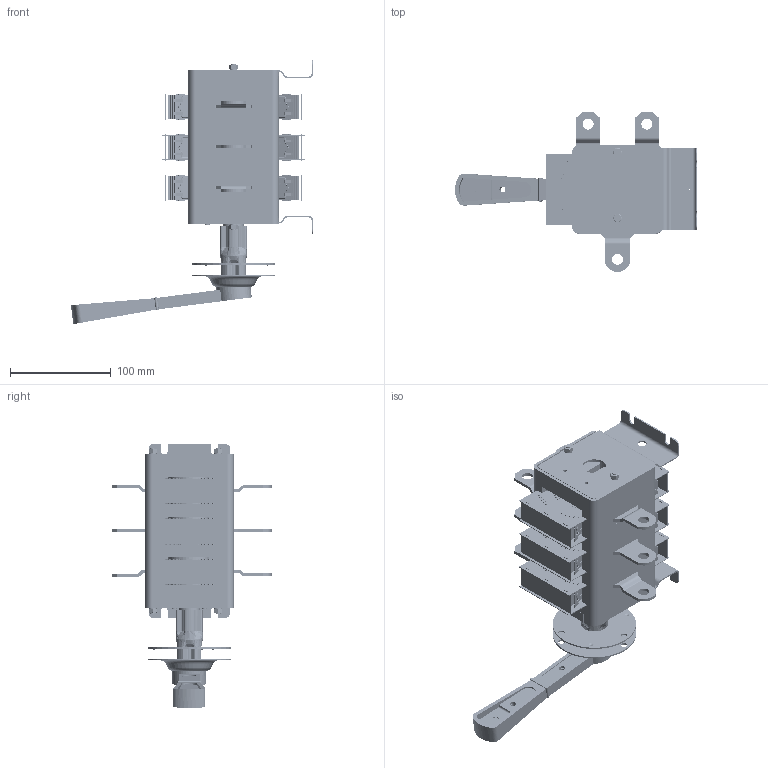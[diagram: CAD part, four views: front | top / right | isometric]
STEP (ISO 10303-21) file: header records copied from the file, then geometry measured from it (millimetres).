
FILE_DESCRIPTION (( 'STEP AP214' ), '1' );
FILE_NAME ('ﾂﾐ32-35 ﾃﾆﾈﾊ.642523.010-01 (ﾂ71250-250ﾀ).STEP', '2023-04-18T12:51:08', ( '' ), ( '' ), 'SwSTEP 2.0', 'SolidWorks 2018', '' );
FILE_SCHEMA (( 'AUTOMOTIVE_DESIGN' ));
Length unit declared in the file: millimetre
Products named in the file (41): Òàáëè÷êà äëÿ ñáîðêè ÷èñòàÿ áîëüøàÿ; ﾂ鏆鮏 ﾃﾆﾈﾊ.745485.015_1; Áîêîâèíà ëåâàÿ ÃÆÈÊ.735224.031; ﾘ琺矜 D15; 想囫蜩磬_闷仁.745355.026; Òàáëè÷êà äëÿ ñáîðêè ÷èñòàÿ; 锐牮钽囫栩咫黖闷仁.741271.006; Êîíòàêò ïîäâèæíûé_ÃÆÈÊ.745355.024; Êîíòàêò ïîäâèæíûé ÃÆÈÊ.685179.158; ﾂﾐ32-35 ﾃﾆﾈﾊ.642523.010-01 (ﾂ71250-250ﾀ); ﾂ鏆鮏 ﾃﾆﾈﾊ.745485.015; Ôëàíåö ÃÆÈÊ.712378.001_-01 (2 ­ ¯à ¢«¥­¨ï); Îñü; 殃钺郷闷仁.746743.010; ﾘ琺矜 5 65ﾃ 016; Âûâîä ÃÆÈÊ.745485.013_‚ë¢®¤_ƒ†ˆŠ.745485.013-02; Ïðóæèíà_250À_-01(¤«ï á¡®àª¨); Êîðïóñ ñðåäíèé ÃÆÈÊ.735384.057; Êàìåðà äóãîãàñèòåëüíàÿ ÃÆÈÊ.686431.029; ﾘ琺矜 ﾃﾆﾈﾊ.758491.056; Øïèëüêà Ì5 ÃÆÈÊ.758292.004; Êîðïóñ ëåâûé ÃÆÈÊ.735384.059; Èñêðîãàñèòåëü ÃÆÈÊ.686433.011 ÑÁ; 砑僔蠂縺_009; 澡犟囹铕 闷仁.745484.003; 羊屙赅_闷仁.741226.006; 锐牮钽囫栩咫黖闷仁.741271.006_sborka; Âûâîä ÃÆÈÊ.745485.013_‚ë¢®¤_ƒ†ˆŠ.745485.013-01; 婰膲僗闉_005; 买箅赅 闷仁.713141.009; 想囫蜩磬_-01 (帷獱); Ãàéêà Ì5-6Í.5.016; ﾎﾁﾎﾋﾎﾗﾊﾀ_ﾍ; ﾏ跖浯 ﾃﾆﾈﾊ.753553.016; Áîêîâèíà ïðàâàÿ ÃÆÈÊ.735224.031; Ðóêîÿòêà ÃÆÈÊ.303658.010; ﾘ琺矜 D32; Ïëàñòèíà óïðàâëåíèÿ; Âûâîä ÃÆÈÊ.745485.013_‚ë¢®¤_ƒ†ˆŠ.745485.013; ﾂ琿 ﾃﾆﾈﾊ.715274.006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
Assembly tree (76 placements, depth 4):
  ﾂﾐ32-35 ﾃﾆﾈﾊ.642523.010-01 (ﾂ71250-250ﾀ)
    暑痫篑 镳噔 闷仁.735384.055
    Êîðïóñ ñðåäíèé ÃÆÈÊ.735384.057  x2
    Êîðïóñ ëåâûé ÃÆÈÊ.735384.059
    ﾂ琿 ﾃﾆﾈﾊ.715274.006
    Áîêîâèíà ïðàâàÿ ÃÆÈÊ.735224.031
    Áîêîâèíà ëåâàÿ ÃÆÈÊ.735224.031
    ﾂ鏆鮏 ﾃﾆﾈﾊ.745485.015_1  x2
    ﾂ鏆鮏 ﾃﾆﾈﾊ.745485.015
    Âûâîä ÃÆÈÊ.745485.013_‚ë¢®¤_ƒ†ˆŠ.745485.013-02  x2
    Âûâîä ÃÆÈÊ.745485.013_‚ë¢®¤_ƒ†ˆŠ.745485.013-01  x2
    Âûâîä ÃÆÈÊ.745485.013_‚ë¢®¤_ƒ†ˆŠ.745485.013  x2
    Êàìåðà äóãîãàñèòåëüíàÿ ÃÆÈÊ.686431.029  x6
      羊屙赅_闷仁.741226.006
      锐牮钽囫栩咫黖闷仁.741271.006
      想囫蜩磬_闷仁.745355.026
      Èñêðîãàñèòåëü ÃÆÈÊ.686433.011 ÑÁ
        锐牮钽囫栩咫黖闷仁.741271.006_sborka
        殃钺郷闷仁.746743.010
    Øïèëüêà Ì5 ÃÆÈÊ.758292.004  x2
    Êîíòàêò ïîäâèæíûé ÃÆÈÊ.685179.158  x3
      Êîíòàêò ïîäâèæíûé_ÃÆÈÊ.745355.024
      砑僔蠂縺_009
      Îñü
      Ïðóæèíà_250À_-01(¤«ï á¡®àª¨)
      婰膲僗闉_005
    Ðóêîÿòêà ÃÆÈÊ.303658.010
      ﾘ琺矜 D32
      ﾘ琺矜 D15
      Ïëàñòèíà óïðàâëåíèÿ
      想囫蜩磬_-01 (帷獱)
      ﾎﾁﾎﾋﾎﾗﾊﾀ_ﾍ
    买箅赅 闷仁.713141.009
    Ôëàíåö ÃÆÈÊ.712378.001_-01 (2 ­ ¯à ¢«¥­¨ï)
    ﾘ琺矜 ﾃﾆﾈﾊ.758491.056
    ﾏ跖浯 ﾃﾆﾈﾊ.753553.016  x2
    澡犟囹铕 闷仁.745484.003  x2
    Òàáëè÷êà äëÿ ñáîðêè ÷èñòàÿ
    Òàáëè÷êà äëÿ ñáîðêè ÷èñòàÿ áîëüøàÿ
    Ãàéêà Ì5-6Í.5.016  x4
    ﾘ琺矜 5 65ﾃ 016  x4
Bounding box: 240.38 x 158.59 x 262.26 mm (x, y, z)
Volume: 677458.3 mm3; surface area: 569610 mm2
Topology: 164 solids, 164 shells, 7155 faces, 18919 edges, 12088 vertices
Faces by surface type: plane 5028, cylinder 1603, torus 298, bspline 140, cone 80, sphere 6
Entity records: 134969 total; most frequent: CARTESIAN_POINT 80849, ORIENTED_EDGE 9980, DIRECTION 9905, EDGE_CURVE 4990, LINE 3305, VECTOR 3305, AXIS2_PLACEMENT_3D 3300, VERTEX_POINT 3230
